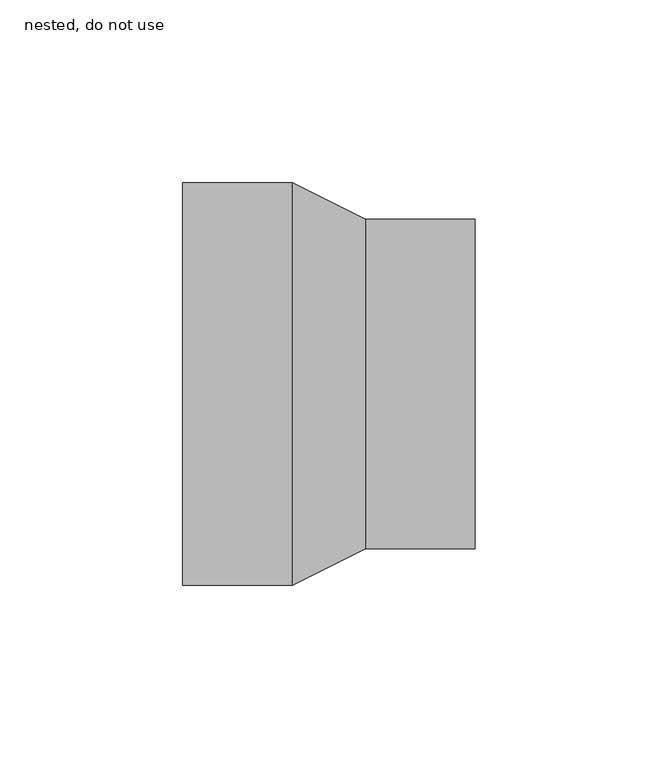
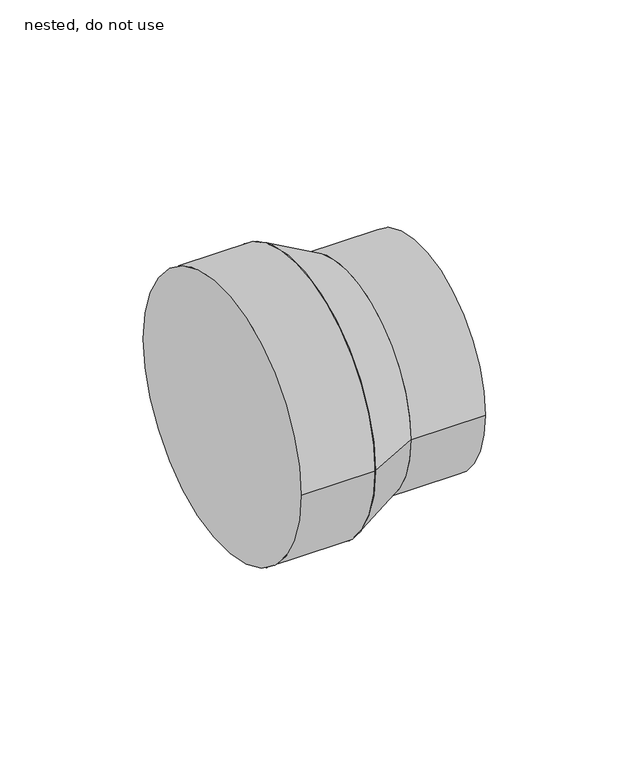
"""IFC4 building model written with IfcOpenShell, lengths in millimetres: pipe fitting geometry, ZZZ_do no use_PIF_HDPE reducer -SH_Akatherm : nested, do not use."""

from ifc_helpers import new_model, si_unit, point, frame, origin, origin_2d, place, context, project, spatial, polyline, circle_curve, trimmed, segment, composite_curve, outline, extrude, source, transform, mapped, element, save
from ifc_brep_helpers import plane_surface, revolved_surface, advanced_brep


def nested_do_not_use_59c94e66(model_context):
    return source(origin(), model_context, "Body", "SolidModel", [
        advanced_brep(
        [(10.0, -45.0, 0.0), (10.0, 45.0, 0.0), (-10.0, -55.0, 0.0), (-10.0, 55.0, 0.0)],
        [
            (0, 1, circle_curve(frame((10.0, 0.0, 0.0), z_axis=(1.0, -3.5548497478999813e-12, 0.0), x_axis=(-3.554740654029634e-12, -1.0, 0.0)), 45.0)),
            (1, 0, circle_curve(frame((10.0, 0.0, 0.0), z_axis=(1.0, -3.5548497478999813e-12, 0.0), x_axis=(3.554740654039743e-12, 1.0, 0.0)), 45.0)),
            (2, 3, circle_curve(frame((-10.0, 0.0, 0.0), z_axis=(-1.0, 3.5548497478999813e-12, 0.0), x_axis=(3.554740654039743e-12, 1.0, 0.0)), 55.0)),
            (3, 2, circle_curve(frame((-10.0, 0.0, 0.0), z_axis=(-1.0, 3.5548497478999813e-12, 0.0), x_axis=(-3.554740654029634e-12, -1.0, 0.0)), 55.0)),
            (3, 1),
            (0, 2),
        ],
        [
            plane_surface(frame((10.0, 0.0, 0.0), z_axis=(1.0, 0.0, 0.0), x_axis=(0.0, 0.0, -1.0))),
            plane_surface(frame((-10.0, 0.0, 0.0), z_axis=(-1.0, 0.0, 0.0), x_axis=(0.0, 0.0, -1.0))),
            revolved_surface(polyline([(10.0, -45.0, 0.0), (-10.000000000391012, -55.000000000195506, 0.0)]), (100.0, 0.0, 0.0), (-1.0, 3.5548497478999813e-12, 0.0)),
            revolved_surface(polyline([(10.000000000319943, 44.99999999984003, 0.0), (-10.0, 55.0, 0.0)]), (100.0, 0.0, 0.0), (-1.0, 3.5548497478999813e-12, 0.0)),
        ],
        [
            (0, [[1, 2]]),
            (1, [[3, 4]]),
            (2, [[-4, 5, -1, 6]]),
            (3, [[-3, -6, -2, -5]]),
        ],
    ),
        extrude(outline(composite_curve([segment(trimmed(circle_curve(origin_2d(), 45.0), [point((-45.0, 0.0))], [point((45.0, 0.0))], False, "CARTESIAN"), True, "CONTINUOUS"), segment(trimmed(circle_curve(origin_2d(), 45.0), [point((45.0, 0.0))], [point((-45.0, 0.0))], False, "CARTESIAN"), True, "CONTINUOUS")], self_intersect=False)), frame((10.0, 0.0, 0.0), z_axis=(1.0, 0.0, 0.0), x_axis=(0.0, 1.0, 0.0)), (0.0, 0.0, 1.0), 30.0),
        extrude(outline(composite_curve([segment(trimmed(circle_curve(origin_2d(), 55.0), [point((-55.0, 0.0))], [point((55.0, 0.0))], False, "CARTESIAN"), True, "CONTINUOUS"), segment(trimmed(circle_curve(origin_2d(), 55.0), [point((55.0, 0.0))], [point((-55.0, 0.0))], False, "CARTESIAN"), True, "CONTINUOUS")], self_intersect=False)), frame((-40.0, 0.0, 0.0), z_axis=(1.0, 0.0, 0.0), x_axis=(0.0, 1.0, 0.0)), (0.0, 0.0, 1.0), 30.0),
    ])


if __name__ == "__main__":
    model = new_model("IFC4")
    model_context = context("Model", 3, world=origin())
    ifc_project = project(units=[si_unit("LENGTHUNIT", "METRE", prefix="MILLI")], contexts=[model_context])
    site = spatial("IfcSite", under=ifc_project)
    building = spatial("IfcBuilding", under=site)
    placement = place(None, origin())
    nested_do_not_use_shape = nested_do_not_use_59c94e66(model_context)
    element("IfcPipeFitting", 1, ObjectType="ZZZ_do no use_PIF_HDPE reducer -SH_Akatherm : nested, do not use", at=placement, inside=building, context=model_context, shape_type="MappedRepresentation", body=[
        mapped(nested_do_not_use_shape, transform((0.0, 0.0, 0.0), x_axis=(1.0, 0.0, 0.0), y_axis=(0.0, 1.0, 0.0), z_axis=(0.0, 0.0, 1.0))),
    ])
    save(model, "model.ifc")
